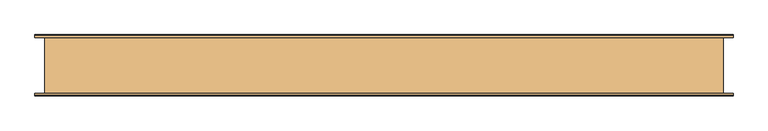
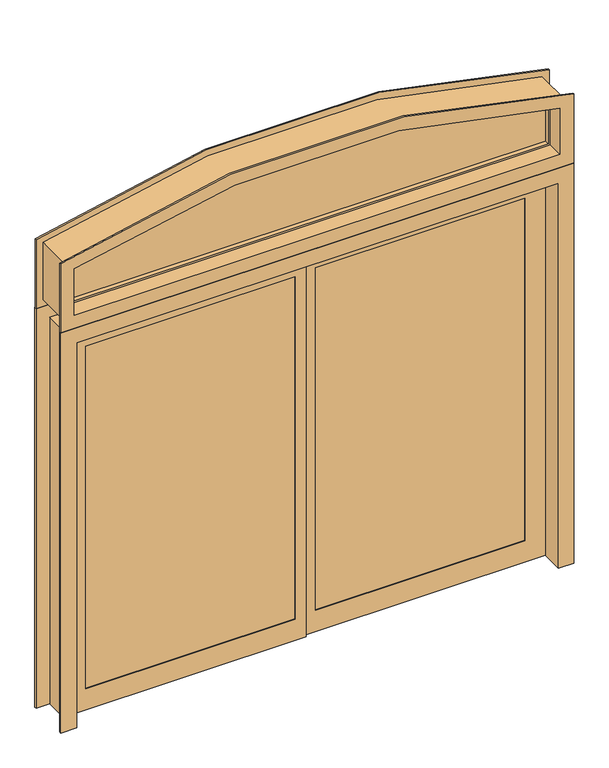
"""IFC4 building model written with IfcOpenShell, lengths in millimetres: door geometry, Pollard_Windows_Vistador Patio Doors_ATS_Extended Segmental : AVDR9580-ESW2406."""

from ifc_helpers import new_model, si_unit, point, frame, frame_2d, origin, place, context, project, spatial, polyline, circle_curve, trimmed, segment, composite_curve, outline, extrude, faceted_brep, source, transform, mapped, element, save
from ifc_brep_helpers import plane_surface, cylinder_surface, revolved_surface, advanced_brep


def door_0574b60c(model_context):
    return source(origin(), model_context, "Body", "SolidModel", [
        extrude(outline(composite_curve([segment(trimmed(circle_curve(frame_2d((-1542.3487196, 0.0)), 4139.5201123), [point((2413.1638565, 1220.47))], [point((2413.1638565, -1220.47))], False, "CARTESIAN"), True, "CONTINUOUS"), segment(polyline([(2413.1638565, -1220.47), (2135.378, -1220.47), (2135.378, 1220.47), (2413.1638565, 1220.47)]), True, "CONTINUOUS")], self_intersect=False)), frame((0.0, -2.6145378, 0.0), z_axis=(0.0, 1.0, 0.0), x_axis=(0.0, 0.0, 1.0)), (0.0, 0.0, 1.0), 5.2290756),
        advanced_brep(
        [(1220.47, -25.4, 2135.378), (1220.47, 25.4, 2135.378), (1220.47, 25.4, 2413.1638565), (1220.47, -25.4, 2413.1638565), (1190.4918258, -2.6145378, 2165.3561742), (1190.4918258, -25.4, 2165.3561742), (1190.4918258, -25.4, 2390.9786446), (1190.4918258, -2.6145378, 2390.9786446), (1200.15, 2.6145378, 2155.698), (1200.15, -2.6145378, 2155.698), (1200.15, -2.6145378, 2398.1397708), (1200.15, 2.6145378, 2398.1397708), (1190.4918258, 25.4, 2165.3561742), (1190.4918258, 2.6145378, 2165.3561742), (1190.4918258, 2.6145378, 2390.9786446), (1190.4918258, 25.4, 2390.9786446), (-1220.47, -25.4, 2413.1638565), (-1220.47, 25.4, 2413.1638565), (-1220.47, -25.4, 2135.378), (-1190.4918258, -25.4, 2390.9786446), (-1190.4918258, -25.4, 2165.3561742), (-1190.4918258, -2.6145378, 2390.9786446), (-1200.15, -2.6145378, 2398.1397708), (-1200.15, -2.6145378, 2155.698), (-1190.4918258, -2.6145378, 2165.3561742), (-1200.15, 2.6145378, 2398.1397708), (-1200.15, 2.6145378, 2155.698), (-1190.4918258, 2.6145378, 2390.9786446), (-1190.4918258, 2.6145378, 2165.3561742), (-1190.4918258, 25.4, 2390.9786446), (-1220.47, 25.4, 2135.378), (-1190.4918258, 25.4, 2165.3561742)],
        [
            (0, 1),
            (1, 2),
            (2, 3),
            (3, 0),
            (4, 5),
            (5, 6),
            (6, 7),
            (7, 4),
            (8, 9),
            (9, 10),
            (10, 11),
            (11, 8),
            (12, 13),
            (13, 14),
            (14, 15),
            (15, 12),
            (16, 3, circle_curve(frame((0.0, -25.4, -1542.3487196), z_axis=(0.0, 1.0, 0.0), x_axis=(0.2969905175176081, 0.0, 0.9548804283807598)), 4139.5201123)),
            (2, 17, circle_curve(frame((0.0, 25.4, -1542.3487196), z_axis=(0.0, -1.0, 0.0), x_axis=(0.2969905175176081, 0.0, 0.9548804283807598)), 4139.5201123)),
            (17, 16),
            (16, 18),
            (18, 0),
            (19, 6, circle_curve(frame((0.0, -25.4, -1542.3487196), z_axis=(0.0, 1.0, 0.0), x_axis=(0.2969905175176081, 0.0, 0.9548804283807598)), 4109.5419381)),
            (5, 20),
            (20, 19),
            (21, 7, circle_curve(frame((0.0, -2.6145378, -1542.3487196), z_axis=(0.0, 1.0, 0.0), x_axis=(0.2969905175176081, 0.0, 0.9548804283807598)), 4109.5419381)),
            (19, 21),
            (22, 10, circle_curve(frame((0.0, -2.6145378, -1542.3487196), z_axis=(0.0, 1.0, 0.0), x_axis=(0.2969905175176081, 0.0, 0.9548804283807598)), 4119.2001123)),
            (9, 23),
            (23, 22),
            (21, 24),
            (24, 4),
            (25, 11, circle_curve(frame((0.0, 2.6145378, -1542.3487196), z_axis=(0.0, 1.0, 0.0), x_axis=(0.2969905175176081, 0.0, 0.9548804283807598)), 4119.2001123)),
            (22, 25),
            (25, 26),
            (26, 8),
            (27, 14, circle_curve(frame((0.0, 2.6145378, -1542.3487196), z_axis=(0.0, 1.0, 0.0), x_axis=(0.2969905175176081, 0.0, 0.9548804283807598)), 4109.5419381)),
            (13, 28),
            (28, 27),
            (29, 15, circle_curve(frame((0.0, 25.4, -1542.3487196), z_axis=(0.0, 1.0, 0.0), x_axis=(0.2969905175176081, 0.0, 0.9548804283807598)), 4109.5419381)),
            (27, 29),
            (1, 30),
            (30, 17),
            (29, 31),
            (31, 12),
            (30, 18),
            (20, 24),
            (23, 26),
            (28, 31),
        ],
        [
            plane_surface(frame((1220.47, 25.4, 2135.378), z_axis=(1.0, 0.0, 0.0), x_axis=(0.0, 0.0, 1.0))),
            plane_surface(frame((1190.4918258, -25.4, 2165.3561742), z_axis=(-1.0, 0.0, 0.0), x_axis=(0.0, 0.0, 1.0))),
            plane_surface(frame((1200.15, -2.6145378, 2155.698), z_axis=(-1.0, 0.0, 0.0), x_axis=(0.0, 0.0, 1.0))),
            plane_surface(frame((1190.4918258, 2.6145378, 2165.3561742), z_axis=(-1.0, 0.0, 0.0), x_axis=(0.0, 0.0, 1.0))),
            cylinder_surface(frame((0.0, 0.0, -1542.3487196), z_axis=(0.0, -1.0, 0.0), x_axis=(0.2969905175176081, 0.0, 0.9548804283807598)), 4139.5201123),
            plane_surface(frame((0.0, -25.4, -1542.3487196), z_axis=(0.0, -1.0, 0.0), x_axis=(0.2969905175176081, 0.0, 0.9548804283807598))),
            revolved_surface(polyline([(1220.494986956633, -25.4, 2381.772446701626), (1220.494986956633, -2.6145378, 2381.772446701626)]), (0.0, 0.0, -1542.3487196), (0.0, -1.0, 0.0)),
            plane_surface(frame((0.0, -2.6145378, -1542.3487196), z_axis=(0.0, 1.0, 0.0), x_axis=(0.2969905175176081, 0.0, 0.9548804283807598))),
            revolved_surface(polyline([(1223.3633731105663, -2.6145378, 2390.994848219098), (1223.3633731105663, 2.6145378, 2390.994848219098)]), (0.0, 0.0, -1542.3487196), (0.0, -1.0, 0.0)),
            plane_surface(frame((0.0, 2.6145378, -1542.3487196), z_axis=(0.0, -1.0, 0.0), x_axis=(0.2969905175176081, 0.0, 0.9548804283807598))),
            revolved_surface(polyline([(1220.494986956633, 2.6145378, 2381.772446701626), (1220.494986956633, 25.4, 2381.772446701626)]), (0.0, 0.0, -1542.3487196), (0.0, -1.0, 0.0)),
            plane_surface(frame((0.0, 25.4, -1542.3487196), z_axis=(0.0, 1.0, 0.0), x_axis=(0.2969905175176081, 0.0, 0.9548804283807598))),
            plane_surface(frame((-1220.47, 25.4, 2413.1638565), z_axis=(-1.0, 0.0, 0.0), x_axis=(0.0, 0.0, -1.0))),
            plane_surface(frame((-1190.4918258, -25.4, 2390.9786446), z_axis=(1.0, 0.0, 0.0), x_axis=(0.0, 0.0, -1.0))),
            plane_surface(frame((-1200.15, -2.6145378, 2398.1397708), z_axis=(1.0, 0.0, 0.0), x_axis=(0.0, 0.0, -1.0))),
            plane_surface(frame((-1190.4918258, 2.6145378, 2390.9786446), z_axis=(1.0, 0.0, 0.0), x_axis=(0.0, 0.0, -1.0))),
            plane_surface(frame((-1220.47, 25.4, 2135.378), z_axis=(0.0, 0.0, -1.0), x_axis=(1.0, 0.0, 0.0))),
            plane_surface(frame((-1190.4918258, -25.4, 2165.3561742), z_axis=(0.0, 0.0, 1.0), x_axis=(1.0, 0.0, 0.0))),
            plane_surface(frame((-1200.15, -2.6145378, 2155.698), z_axis=(0.0, 0.0, 1.0), x_axis=(1.0, 0.0, 0.0))),
            plane_surface(frame((-1190.4918258, 2.6145378, 2165.3561742), z_axis=(0.0, 0.0, 1.0), x_axis=(1.0, 0.0, 0.0))),
        ],
        [
            (0, [[1, 2, 3, 4]]),
            (1, [[5, 6, 7, 8]]),
            (2, [[9, 10, 11, 12]]),
            (3, [[13, 14, 15, 16]]),
            (4, [[17, -3, 18, 19]]),
            (5, [[-17, 20, 21, -4], [22, -6, 23, 24]]),
            (6, [[25, -7, -22, 26]]),
            (7, [[27, -10, 28, 29], [-25, 30, 31, -8]]),
            (8, [[32, -11, -27, 33]]),
            (9, [[-32, 34, 35, -12], [36, -14, 37, 38]]),
            (10, [[39, -15, -36, 40]]),
            (11, [[-18, -2, 41, 42], [-39, 43, 44, -16]]),
            (12, [[-19, -42, 45, -20]]),
            (13, [[-26, -24, 46, -30]]),
            (14, [[-33, -29, 47, -34]]),
            (15, [[-40, -38, 48, -43]]),
            (16, [[-45, -41, -1, -21]]),
            (17, [[-46, -23, -5, -31]]),
            (18, [[-47, -28, -9, -35]]),
            (19, [[-48, -37, -13, -44]]),
        ],
    ),
        advanced_brep(
        [(-1268.349, -107.95, 2448.3407121), (-1268.349, -101.6, 2448.3407121), (-1268.349, -101.6, 2087.499), (-1268.349, -107.95, 2087.499), (-1200.15, -25.4, 2398.1397708), (-1200.15, -101.6, 2398.1397708), (-1200.15, -107.95, 2398.1397708), (-1200.15, -107.95, 2155.698), (-1200.15, -25.4, 2155.698), (-1220.47, 25.4, 2413.1638565), (-1220.47, -25.4, 2413.1638565), (-1220.47, -25.4, 2135.378), (-1220.47, 25.4, 2135.378), (-1200.15, 107.95, 2398.1397708), (-1200.15, 25.4, 2398.1397708), (-1200.15, 25.4, 2155.698), (-1200.15, 107.95, 2155.698), (-1268.349, 101.6, 2448.3407121), (-1268.349, 107.95, 2448.3407121), (-1268.349, 107.95, 2087.499), (-1268.349, 101.6, 2087.499), (-1233.17, -101.6, 2422.525), (-1233.17, 101.6, 2422.525), (-1233.17, 101.6, 2122.678), (-1233.17, -101.6, 2122.678), (1268.349, -101.6, 2087.499), (1268.349, -107.95, 2087.499), (1200.15, -107.95, 2155.698), (1200.15, -25.4, 2155.698), (1220.47, -25.4, 2135.378), (1220.47, 25.4, 2135.378), (1200.15, 25.4, 2155.698), (1200.15, 107.95, 2155.698), (1268.349, 107.95, 2087.499), (1268.349, 101.6, 2087.499), (1233.17, 101.6, 2122.678), (1233.17, -101.6, 2122.678), (1268.349, -101.6, 2448.3407121), (1268.349, -107.95, 2448.3407121), (1200.15, -107.95, 2398.1397708), (1200.15, -101.6, 2398.1397708), (1200.15, -25.4, 2398.1397708), (1220.47, -25.4, 2413.1638565), (1220.47, 25.4, 2413.1638565), (1200.15, 25.4, 2398.1397708), (1200.15, 107.95, 2398.1397708), (1268.349, 107.95, 2448.3407121), (1268.349, 101.6, 2448.3407121), (1233.17, 101.6, 2422.525), (1233.17, -101.6, 2422.525)],
        [
            (0, 1),
            (1, 2),
            (2, 3),
            (3, 0),
            (4, 5),
            (5, 6),
            (6, 7),
            (7, 8),
            (8, 4),
            (9, 10),
            (10, 11),
            (11, 12),
            (12, 9),
            (13, 14),
            (14, 15),
            (15, 16),
            (16, 13),
            (17, 18),
            (18, 19),
            (19, 20),
            (20, 17),
            (21, 22),
            (22, 23),
            (23, 24),
            (24, 21),
            (2, 25),
            (25, 26),
            (26, 3),
            (7, 27),
            (27, 28),
            (28, 8),
            (11, 29),
            (29, 30),
            (30, 12),
            (15, 31),
            (31, 32),
            (32, 16),
            (19, 33),
            (33, 34),
            (34, 20),
            (23, 35),
            (35, 36),
            (36, 24),
            (25, 37),
            (37, 38),
            (38, 26),
            (27, 39),
            (39, 40),
            (40, 41),
            (41, 28),
            (29, 42),
            (42, 43),
            (43, 30),
            (31, 44),
            (44, 45),
            (45, 32),
            (33, 46),
            (46, 47),
            (47, 34),
            (35, 48),
            (48, 49),
            (49, 36),
            (1, 37, circle_curve(frame((0.0, -101.6, -1542.3487196), z_axis=(0.0, 1.0, 0.0), x_axis=(0.2969905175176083, 0.0, 0.9548804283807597)), 4187.3991123)),
            (49, 21, circle_curve(frame((0.0, -101.6, -1542.3487196), z_axis=(0.0, -1.0, 0.0), x_axis=(0.2969905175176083, 0.0, 0.9548804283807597)), 4152.2201123)),
            (0, 38, circle_curve(frame((0.0, -107.95, -1542.3487196), z_axis=(0.0, 1.0, 0.0), x_axis=(0.2969905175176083, 0.0, 0.9548804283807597)), 4187.3991123)),
            (6, 39, circle_curve(frame((0.0, -107.95, -1542.3487196), z_axis=(0.0, 1.0, 0.0), x_axis=(0.2969905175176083, 0.0, 0.9548804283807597)), 4119.2001123)),
            (5, 40, circle_curve(frame((0.0, -101.6, -1542.3487196), z_axis=(0.0, 1.0, 0.0), x_axis=(0.2969905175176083, 0.0, 0.9548804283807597)), 4119.2001123)),
            (4, 41, circle_curve(frame((0.0, -25.4, -1542.3487196), z_axis=(0.0, 1.0, 0.0), x_axis=(0.2969905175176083, 0.0, 0.9548804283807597)), 4119.2001123)),
            (10, 42, circle_curve(frame((0.0, -25.4, -1542.3487196), z_axis=(0.0, 1.0, 0.0), x_axis=(0.2969905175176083, 0.0, 0.9548804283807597)), 4139.5201123)),
            (9, 43, circle_curve(frame((0.0, 25.4, -1542.3487196), z_axis=(0.0, 1.0, 0.0), x_axis=(0.2969905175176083, 0.0, 0.9548804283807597)), 4139.5201123)),
            (14, 44, circle_curve(frame((0.0, 25.4, -1542.3487196), z_axis=(0.0, 1.0, 0.0), x_axis=(0.2969905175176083, 0.0, 0.9548804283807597)), 4119.2001123)),
            (13, 45, circle_curve(frame((0.0, 107.95, -1542.3487196), z_axis=(0.0, 1.0, 0.0), x_axis=(0.2969905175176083, 0.0, 0.9548804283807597)), 4119.2001123)),
            (18, 46, circle_curve(frame((0.0, 107.95, -1542.3487196), z_axis=(0.0, 1.0, 0.0), x_axis=(0.2969905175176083, 0.0, 0.9548804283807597)), 4187.3991123)),
            (17, 47, circle_curve(frame((0.0, 101.6, -1542.3487196), z_axis=(0.0, 1.0, 0.0), x_axis=(0.2969905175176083, 0.0, 0.9548804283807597)), 4187.3991123)),
            (22, 48, circle_curve(frame((0.0, 101.6, -1542.3487196), z_axis=(0.0, 1.0, 0.0), x_axis=(0.2969905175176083, 0.0, 0.9548804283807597)), 4152.2201123)),
        ],
        [
            plane_surface(frame((-1268.349, -101.6, 2448.3407121), z_axis=(-1.0, 0.0, 0.0), x_axis=(0.0, 0.0, -1.0))),
            plane_surface(frame((-1200.15, -101.6, 2398.1397708), z_axis=(1.0, 0.0, 0.0), x_axis=(0.0, 0.0, -1.0))),
            plane_surface(frame((-1220.47, -25.4, 2413.1638565), z_axis=(1.0, 0.0, 0.0), x_axis=(0.0, 0.0, -1.0))),
            plane_surface(frame((-1200.15, 25.4, 2398.1397708), z_axis=(1.0, 0.0, 0.0), x_axis=(0.0, 0.0, -1.0))),
            plane_surface(frame((-1268.349, 107.95, 2448.3407121), z_axis=(-1.0, 0.0, 0.0), x_axis=(0.0, 0.0, -1.0))),
            plane_surface(frame((-1233.17, 101.6, 2422.525), z_axis=(-1.0, 0.0, 0.0), x_axis=(0.0, 0.0, -1.0))),
            plane_surface(frame((-1268.349, -101.6, 2087.499), z_axis=(0.0, 0.0, -1.0), x_axis=(1.0, 0.0, 0.0))),
            plane_surface(frame((-1200.15, -101.6, 2155.698), z_axis=(0.0, 0.0, 1.0), x_axis=(1.0, 0.0, 0.0))),
            plane_surface(frame((-1220.47, -25.4, 2135.378), z_axis=(0.0, 0.0, 1.0), x_axis=(1.0, 0.0, 0.0))),
            plane_surface(frame((-1200.15, 25.4, 2155.698), z_axis=(0.0, 0.0, 1.0), x_axis=(1.0, 0.0, 0.0))),
            plane_surface(frame((-1268.349, 107.95, 2087.499), z_axis=(0.0, 0.0, -1.0), x_axis=(1.0, 0.0, 0.0))),
            plane_surface(frame((-1233.17, 101.6, 2122.678), z_axis=(0.0, 0.0, -1.0), x_axis=(1.0, 0.0, 0.0))),
            plane_surface(frame((1268.349, -101.6, 2087.499), z_axis=(1.0, 0.0, 0.0), x_axis=(0.0, 0.0, 1.0))),
            plane_surface(frame((1200.15, -101.6, 2155.698), z_axis=(-1.0, 0.0, 0.0), x_axis=(0.0, 0.0, 1.0))),
            plane_surface(frame((1220.47, -25.4, 2135.378), z_axis=(-1.0, 0.0, 0.0), x_axis=(0.0, 0.0, 1.0))),
            plane_surface(frame((1200.15, 25.4, 2155.698), z_axis=(-1.0, 0.0, 0.0), x_axis=(0.0, 0.0, 1.0))),
            plane_surface(frame((1268.349, 107.95, 2087.499), z_axis=(1.0, 0.0, 0.0), x_axis=(0.0, 0.0, 1.0))),
            plane_surface(frame((1233.17, 101.6, 2122.678), z_axis=(1.0, 0.0, 0.0), x_axis=(0.0, 0.0, 1.0))),
            plane_surface(frame((0.0, -101.6, -1542.3487196), z_axis=(0.0, 1.0, 0.0), x_axis=(0.2969905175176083, 0.0, 0.9548804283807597))),
            cylinder_surface(frame((0.0, 101.6, -1542.3487196), z_axis=(0.0, -1.0, 0.0), x_axis=(0.2969905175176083, 0.0, 0.9548804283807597)), 4187.3991123),
            plane_surface(frame((0.0, -107.95, -1542.3487196), z_axis=(0.0, -1.0, 0.0), x_axis=(0.2969905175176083, 0.0, 0.9548804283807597))),
            revolved_surface(polyline([(1223.3633731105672, -107.95000000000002, 2390.9948482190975), (1223.3633731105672, -101.6, 2390.9948482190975)]), (0.0, 101.6, -1542.3487196), (0.0, -1.0, 0.0)),
            revolved_surface(polyline([(1223.3633731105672, -101.6, 2390.9948482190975), (1223.3633731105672, -25.400000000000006, 2390.9948482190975)]), (0.0, 101.6, -1542.3487196), (0.0, -1.0, 0.0)),
            plane_surface(frame((0.0, -25.4, -1542.3487196), z_axis=(0.0, 1.0, 0.0), x_axis=(0.2969905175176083, 0.0, 0.9548804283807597))),
            revolved_surface(polyline([(1229.3982204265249, -25.400000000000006, 2410.3980185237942), (1229.3982204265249, 25.400000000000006, 2410.3980185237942)]), (0.0, 101.6, -1542.3487196), (0.0, -1.0, 0.0)),
            plane_surface(frame((0.0, 25.4, -1542.3487196), z_axis=(0.0, -1.0, 0.0), x_axis=(0.2969905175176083, 0.0, 0.9548804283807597))),
            revolved_surface(polyline([(1223.3633731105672, 25.400000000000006, 2390.9948482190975), (1223.3633731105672, 107.95, 2390.9948482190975)]), (0.0, 101.6, -1542.3487196), (0.0, -1.0, 0.0)),
            plane_surface(frame((0.0, 107.95, -1542.3487196), z_axis=(0.0, 1.0, 0.0), x_axis=(0.2969905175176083, 0.0, 0.9548804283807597))),
            plane_surface(frame((0.0, 101.6, -1542.3487196), z_axis=(0.0, -1.0, 0.0), x_axis=(0.2969905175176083, 0.0, 0.9548804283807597))),
            cylinder_surface(frame((0.0, 101.6, -1542.3487196), z_axis=(0.0, -1.0, 0.0), x_axis=(0.2969905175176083, 0.0, 0.9548804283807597)), 4152.2201123),
        ],
        [
            (0, [[1, 2, 3, 4]]),
            (1, [[5, 6, 7, 8, 9]]),
            (2, [[10, 11, 12, 13]]),
            (3, [[14, 15, 16, 17]]),
            (4, [[18, 19, 20, 21]]),
            (5, [[22, 23, 24, 25]]),
            (6, [[-3, 26, 27, 28]]),
            (7, [[-8, 29, 30, 31]]),
            (8, [[-12, 32, 33, 34]]),
            (9, [[-16, 35, 36, 37]]),
            (10, [[-20, 38, 39, 40]]),
            (11, [[-24, 41, 42, 43]]),
            (12, [[-27, 44, 45, 46]]),
            (13, [[-30, 47, 48, 49, 50]]),
            (14, [[-33, 51, 52, 53]]),
            (15, [[-36, 54, 55, 56]]),
            (16, [[-39, 57, 58, 59]]),
            (17, [[-42, 60, 61, 62]]),
            (18, [[63, -44, -26, -2], [-43, -62, 64, -25]]),
            (19, [[65, -45, -63, -1]]),
            (20, [[-28, -46, -65, -4], [66, -47, -29, -7]]),
            (21, [[67, -48, -66, -6]]),
            (22, [[68, -49, -67, -5]]),
            (23, [[69, -51, -32, -11], [-31, -50, -68, -9]]),
            (24, [[70, -52, -69, -10]]),
            (25, [[-34, -53, -70, -13], [71, -54, -35, -15]]),
            (26, [[72, -55, -71, -14]]),
            (27, [[73, -57, -38, -19], [-37, -56, -72, -17]]),
            (19, [[74, -58, -73, -18]]),
            (28, [[-40, -59, -74, -21], [75, -60, -41, -23]]),
            (29, [[-64, -61, -75, -22]]),
        ],
    ),
        extrude(outline(polyline([(-54.991, -10.0399998), (-1090.168, -10.0399998), (-1090.168, -4.9599998), (-54.991, -4.9599998), (-54.991, -10.0399998)])), frame((0.0, 0.0, 109.982), z_axis=(0.0, 0.0, 1.0), x_axis=(1.0, 0.0, 0.0)), (0.0, 0.0, 1.0), 1790.586),
        extrude(outline(polyline([(54.991, 10.0399998), (1090.168, 10.0399998), (1090.168, 4.9599998), (54.991, 4.9599998), (54.991, 10.0399998)])), frame((0.0, 0.0, 109.982), z_axis=(0.0, 0.0, 1.0), x_axis=(1.0, 0.0, 0.0)), (0.0, 0.0, 1.0), 1790.586),
        extrude(outline(polyline([(2010.55, 1191.4), (2010.55, 0.0), (0.0, 0.0), (0.0, 1191.4), (2010.55, 1191.4)]), holes=[polyline([(109.982, 1090.168), (109.982, 54.991), (1900.568, 54.991), (1900.568, 1090.168), (109.982, 1090.168)])]), frame((0.0, 0.0, 0.0), z_axis=(0.0, 1.0, 0.0), x_axis=(0.0, 0.0, 1.0)), (0.0, 0.0, 1.0), 14.9999996),
        extrude(outline(polyline([(2010.55, -1191.4), (0.0, -1191.4), (0.0, 0.0), (2010.55, 0.0), (2010.55, -1191.4)]), holes=[polyline([(1900.568, -1090.168), (1900.568, -54.991), (109.982, -54.991), (109.982, -1090.168), (1900.568, -1090.168)])]), frame((0.0, -14.9999996, 0.0), z_axis=(0.0, 1.0, 0.0), x_axis=(0.0, 0.0, 1.0)), (0.0, 0.0, 1.0), 14.9999996),
        faceted_brep([(1268.349, 111.6, 0.0), (1268.349, 101.6, 0.0), (1200.15, 101.6, 0.0), (1200.15, -101.6, 0.0), (1268.349, -101.6, 0.0), (1268.349, -111.6, 0.0), (1191.4, -111.6, 0.0), (1191.4, 111.6, 0.0), (1268.349, 111.6, 2087.499), (1268.349, 101.6, 2087.499), (-1268.349, 101.6, 2087.499), (-1268.349, 101.6, 0.0), (-1200.15, 101.6, 0.0), (-1200.15, 101.6, 2019.3), (1200.15, 101.6, 2019.3), (1200.15, -101.6, 2019.3), (-1200.15, -101.6, 2019.3), (-1200.15, -101.6, 0.0), (-1268.349, -101.6, 0.0), (-1268.349, -101.6, 2087.499), (1268.349, -101.6, 2087.499), (1268.349, -111.6, 2087.499), (-1268.349, -111.6, 2087.499), (-1268.349, -111.6, 0.0), (-1191.4, -111.6, 0.0), (-1191.4, -111.6, 2010.55), (1191.4, -111.6, 2010.55), (1191.4, 111.6, 2010.55), (-1191.4, 111.6, 2010.55), (-1191.4, 111.6, 0.0), (-1268.349, 111.6, 0.0), (-1268.349, 111.6, 2087.499)], [[[0, 1, 2, 3, 4, 5, 6, 7]], [[1, 0, 8, 9]], [[2, 1, 9, 10, 11, 12, 13, 14]], [[2, 14, 15, 3]], [[4, 3, 15, 16, 17, 18, 19, 20]], [[5, 4, 20, 21]], [[6, 5, 21, 22, 23, 24, 25, 26]], [[6, 26, 27, 7]], [[0, 7, 27, 28, 29, 30, 31, 8]], [[30, 29, 24, 23, 18, 17, 12, 11]], [[28, 25, 24, 29]], [[22, 19, 18, 23]], [[16, 13, 12, 17]], [[10, 31, 30, 11]], [[9, 8, 31, 10]], [[27, 26, 25, 28]], [[15, 14, 13, 16]], [[21, 20, 19, 22]]]),
    ])


if __name__ == "__main__":
    model = new_model("IFC4")
    model_context = context("Model", 3, world=origin())
    ifc_project = project(units=[si_unit("LENGTHUNIT", "METRE", prefix="MILLI")], contexts=[model_context])
    site = spatial("IfcSite", under=ifc_project)
    building = spatial("IfcBuilding", under=site)
    placement = place(None, origin())
    door_shape = door_0574b60c(model_context)
    element("IfcDoor", 1, ObjectType="Pollard_Windows_Vistador Patio Doors_ATS_Extended Segmental : AVDR9580-ESW2406", at=placement, inside=building, context=model_context, shape_type="MappedRepresentation", body=[
        mapped(door_shape, transform((0.0, 0.0, 0.0), x_axis=(1.0, 0.0, 0.0), y_axis=(0.0, 1.0, 0.0), z_axis=(0.0, 0.0, 1.0))),
    ])
    save(model, "model.ifc")
